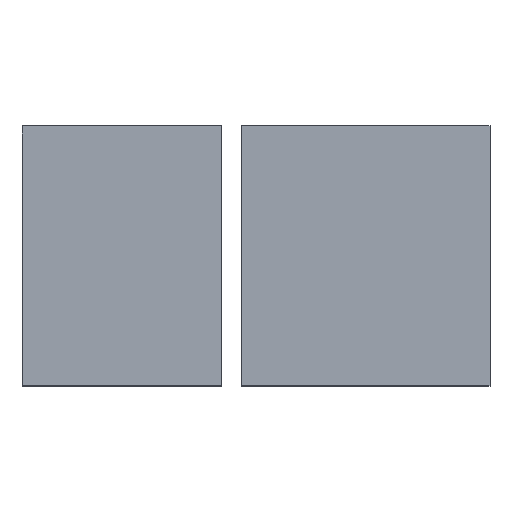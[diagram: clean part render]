
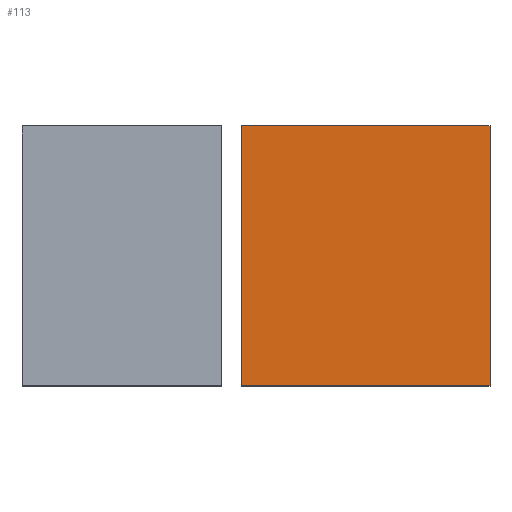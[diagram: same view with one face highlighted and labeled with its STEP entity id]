
A CAD part, top view. The second image highlights one B-rep face of the part: STEP entity #113.
In plain terms, the highlighted planar face has unit normal (0, 0, 1).
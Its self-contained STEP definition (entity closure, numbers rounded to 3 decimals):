
#113=ADVANCED_FACE('',(#211),#213,.T.);
#211=FACE_BOUND('',#212,.T.);
#212=EDGE_LOOP('',(#280,#281,#282,#283));
#213=PLANE('',#214);
#214=AXIS2_PLACEMENT_3D('',#215,#216,#217);
#215=CARTESIAN_POINT('',(0.,0.,3.));
#216=DIRECTION('',(0.,0.,1.));
#217=DIRECTION('',(1.,0.,0.));
#280=ORIENTED_EDGE('',*,*,#314,.T.);
#281=ORIENTED_EDGE('',*,*,#319,.T.);
#282=ORIENTED_EDGE('',*,*,#317,.T.);
#283=ORIENTED_EDGE('',*,*,#315,.T.);
#314=EDGE_CURVE('',#340,#342,#344,.F.);
#315=EDGE_CURVE('',#345,#340,#346,.T.);
#317=EDGE_CURVE('',#348,#345,#349,.T.);
#319=EDGE_CURVE('',#342,#348,#351,.T.);
#340=VERTEX_POINT('',#388);
#342=VERTEX_POINT('',#392);
#344=LINE('',#396,#397);
#345=VERTEX_POINT('',#399);
#346=LINE('',#400,#401);
#348=VERTEX_POINT('',#406);
#349=LINE('',#407,#408);
#351=LINE('',#413,#414);
#388=CARTESIAN_POINT('',(21.148,25.,3.));
#392=CARTESIAN_POINT('',(21.148,0.,3.));
#396=CARTESIAN_POINT('',(21.148,0.,3.));
#397=VECTOR('',#398,1.);
#398=DIRECTION('',(0.,1.,0.));
#399=CARTESIAN_POINT('',(45.,25.,3.));
#400=CARTESIAN_POINT('',(45.,25.,3.));
#401=VECTOR('',#402,1.);
#402=DIRECTION('',(-1.,0.,0.));
#406=CARTESIAN_POINT('',(45.,0.,3.));
#407=CARTESIAN_POINT('',(45.,0.,3.));
#408=VECTOR('',#409,1.);
#409=DIRECTION('',(0.,1.,0.));
#413=CARTESIAN_POINT('',(21.148,0.,3.));
#414=VECTOR('',#415,1.);
#415=DIRECTION('',(1.,0.,0.));
